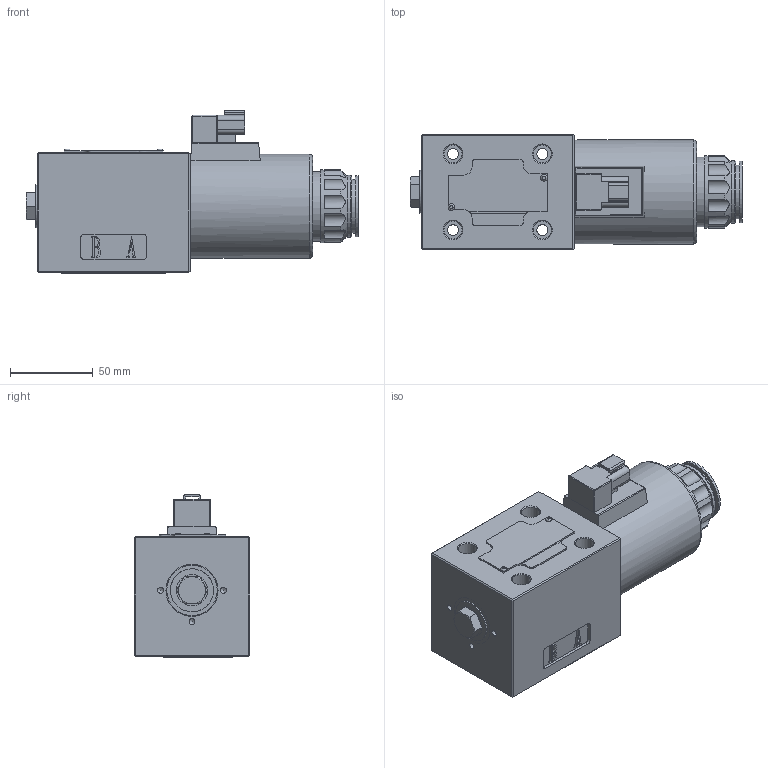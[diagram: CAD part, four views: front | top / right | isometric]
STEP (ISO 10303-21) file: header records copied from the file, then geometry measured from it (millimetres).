
FILE_DESCRIPTION(/* description */ (''),/* implementation_level */ '2;1');
FILE_NAME(/* name */ '4WE10-3XJ直流防水电磁阀（二位阀电磁铁在A端）.prt.stp',/* time_stamp */ '2022-03-30T19:34:01+08:00',/* author */ (''),/* organization */ (''),/* preprocessor_version */ 'ST-DEVELOPER v16.7',/* originating_system */ 'SIEMENS PLM Software NX 12.0',/* authorisation */ '');
FILE_SCHEMA (('AUTOMOTIVE_DESIGN { 1 0 10303 214 3 1 1 1 }'));
Length unit declared in the file: millimetre
Products named in the file (1): 4WE10-3XJ直流防水电磁阀（二位阀电磁铁在A
端）
Bounding box: 200.7 x 70 x 98.3 mm (x, y, z)
Volume: 768989.4 mm3; surface area: 132002.3 mm2
Topology: 22 solids, 30 shells, 978 faces, 2316 edges, 1485 vertices
Faces by surface type: plane 523, cylinder 270, torus 98, cone 63, bspline 20, sphere 3, extrusion 1
Full cylindrical faces by diameter (mm): 1.2 x2, 1.8 x4, 1.9 x2, 2 x8, 3 x1, 3.6 x6, 5 x1, 6 x1, 6.6 x4, 8 x6, 10 x4, 11 x7, 11.5 x6, 12 x2, 15 x6, 15.7 x5, 16.5 x1, 17 x1, 17.4 x18, 18 x27, 18.4 x1, 20.5 x2, 21 x2, 21.4 x1, 23 x1, 24 x1, 26 x2, 31.5 x3, 32.5 x1, 33 x1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
Entity records: 36190 total; most frequent: CARTESIAN_POINT 12494, DIRECTION 4365, ORIENTED_EDGE 3890, EDGE_CURVE 1945, AXIS2_PLACEMENT_3D 1621, VERTEX_POINT 1421, EDGE_LOOP 1382, VECTOR 1123
